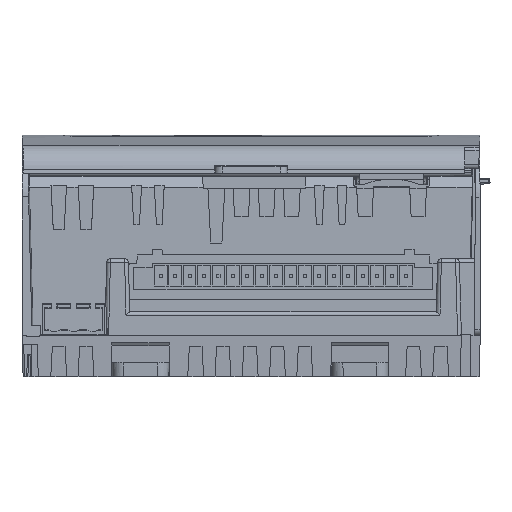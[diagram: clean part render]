
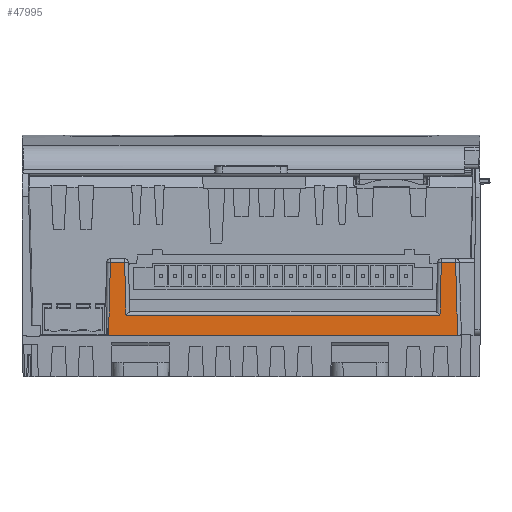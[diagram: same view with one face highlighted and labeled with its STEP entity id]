
A CAD part, front view. The second image highlights one B-rep face of the part: STEP entity #47995.
In plain terms, the highlighted planar face has unit normal (0, -1, 0.026).
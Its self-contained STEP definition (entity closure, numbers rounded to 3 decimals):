
#441 = VECTOR ( 'NONE', #80513, 1000. ) ;
#1100 = VERTEX_POINT ( 'NONE', #32212 ) ;
#2976 = LINE ( 'NONE', #79815, #92111 ) ;
#5775 = EDGE_LOOP ( 'NONE', ( #7467, #82458, #10784, #16719, #33822, #53553, #22791, #87925 ) ) ;
#6552 = LINE ( 'NONE', #15518, #95671 ) ;
#7467 = ORIENTED_EDGE ( 'NONE', *, *, #99636, .T. ) ;
#9318 = EDGE_CURVE ( 'NONE', #105838, #87220, #6552, .T. ) ;
#10784 = ORIENTED_EDGE ( 'NONE', *, *, #77678, .T. ) ;
#14719 = AXIS2_PLACEMENT_3D ( 'NONE', #92727, #57264, #91622 ) ;
#15518 = CARTESIAN_POINT ( 'NONE',  ( 49.915, -57.574, 17.274 ) ) ;
#16719 = ORIENTED_EDGE ( 'NONE', *, *, #9318, .T. ) ;
#21666 = DIRECTION ( 'NONE',  ( -0.026, 0.026, 0.999 ) ) ;
#22742 = VERTEX_POINT ( 'NONE', #100570 ) ;
#22791 = ORIENTED_EDGE ( 'NONE', *, *, #87732, .T. ) ;
#27204 = EDGE_CURVE ( 'NONE', #1100, #78023, #82919, .T. ) ;
#32212 = CARTESIAN_POINT ( 'NONE',  ( -33.058, -57.599, 16.326 ) ) ;
#32765 = VERTEX_POINT ( 'NONE', #57052 ) ;
#33453 = VECTOR ( 'NONE', #87327, 1000. ) ;
#33822 = ORIENTED_EDGE ( 'NONE', *, *, #92788, .T. ) ;
#38222 = CARTESIAN_POINT ( 'NONE',  ( 54.476, -57.675, 13.394 ) ) ;
#40305 = PLANE ( 'NONE',  #14719 ) ;
#43075 = CARTESIAN_POINT ( 'NONE',  ( -33.422, -57.235, 30.226 ) ) ;
#43579 = CARTESIAN_POINT ( 'NONE',  ( -37.02, -57.738, 11. ) ) ;
#43725 = EDGE_CURVE ( 'NONE', #62907, #22742, #90611, .T. ) ;
#46636 = CARTESIAN_POINT ( 'NONE',  ( -33.447, -57.21, 31.174 ) ) ;
#47914 = LINE ( 'NONE', #106109, #441 ) ;
#47995 = ADVANCED_FACE ( 'NONE', ( #105909 ), #40305, .T. ) ;
#50138 = VECTOR ( 'NONE', #79373, 1000. ) ;
#50157 = VECTOR ( 'NONE', #73482, 1000. ) ;
#53553 = ORIENTED_EDGE ( 'NONE', *, *, #27204, .T. ) ;
#57052 = CARTESIAN_POINT ( 'NONE',  ( 54.035, -57.235, 30.226 ) ) ;
#57264 = DIRECTION ( 'NONE',  ( 0., -1., 0.026 ) ) ;
#58551 = VECTOR ( 'NONE', #21666, 1000. ) ;
#59124 = LINE ( 'NONE', #43579, #33453 ) ;
#62907 = VERTEX_POINT ( 'NONE', #81006 ) ;
#73321 = DIRECTION ( 'NONE',  ( -0.026, 0.026, 0.999 ) ) ;
#73482 = DIRECTION ( 'NONE',  ( -1., 0., 0. ) ) ;
#75813 = LINE ( 'NONE', #82507, #50157 ) ;
#76454 = CARTESIAN_POINT ( 'NONE',  ( 54.538, -57.738, 11. ) ) ;
#77678 = EDGE_CURVE ( 'NONE', #32765, #105838, #2976, .T. ) ;
#78023 = VERTEX_POINT ( 'NONE', #43075 ) ;
#79373 = DIRECTION ( 'NONE',  ( -0.026, -0.026, -0.999 ) ) ;
#79815 = CARTESIAN_POINT ( 'NONE',  ( 49.28, -57.235, 30.226 ) ) ;
#80513 = DIRECTION ( 'NONE',  ( -1., 0., 0. ) ) ;
#81006 = CARTESIAN_POINT ( 'NONE',  ( -37.177, -57.235, 30.226 ) ) ;
#82458 = ORIENTED_EDGE ( 'NONE', *, *, #93981, .T. ) ;
#82507 = CARTESIAN_POINT ( 'NONE',  ( -32.084, -57.599, 16.326 ) ) ;
#82919 = LINE ( 'NONE', #46636, #58551 ) ;
#83852 = DIRECTION ( 'NONE',  ( -0.026, -0.026, -0.999 ) ) ;
#84261 = CARTESIAN_POINT ( 'NONE',  ( 50.254, -57.235, 30.226 ) ) ;
#86331 = CARTESIAN_POINT ( 'NONE',  ( 49.89, -57.599, 16.326 ) ) ;
#87220 = VERTEX_POINT ( 'NONE', #86331 ) ;
#87327 = DIRECTION ( 'NONE',  ( 1., 0., 0. ) ) ;
#87708 = DIRECTION ( 'NONE',  ( -1., 0., 0. ) ) ;
#87732 = EDGE_CURVE ( 'NONE', #78023, #62907, #47914, .T. ) ;
#87925 = ORIENTED_EDGE ( 'NONE', *, *, #43725, .T. ) ;
#88364 = CARTESIAN_POINT ( 'NONE',  ( -37.68, -57.738, 11.017 ) ) ;
#89032 = LINE ( 'NONE', #38222, #102699 ) ;
#90611 = LINE ( 'NONE', #88364, #50138 ) ;
#91622 = DIRECTION ( 'NONE',  ( 0., -0.026, -1. ) ) ;
#92111 = VECTOR ( 'NONE', #87708, 1000. ) ;
#92727 = CARTESIAN_POINT ( 'NONE',  ( -37.02, -57.738, 11. ) ) ;
#92788 = EDGE_CURVE ( 'NONE', #87220, #1100, #75813, .T. ) ;
#92833 = VERTEX_POINT ( 'NONE', #76454 ) ;
#93981 = EDGE_CURVE ( 'NONE', #92833, #32765, #89032, .T. ) ;
#95671 = VECTOR ( 'NONE', #83852, 1000. ) ;
#99636 = EDGE_CURVE ( 'NONE', #22742, #92833, #59124, .T. ) ;
#100570 = CARTESIAN_POINT ( 'NONE',  ( -37.681, -57.738, 11. ) ) ;
#102699 = VECTOR ( 'NONE', #73321, 1000. ) ;
#105838 = VERTEX_POINT ( 'NONE', #84261 ) ;
#105909 = FACE_OUTER_BOUND ( 'NONE', #5775, .T. ) ;
#106109 = CARTESIAN_POINT ( 'NONE',  ( -37.152, -57.235, 30.226 ) ) ;
